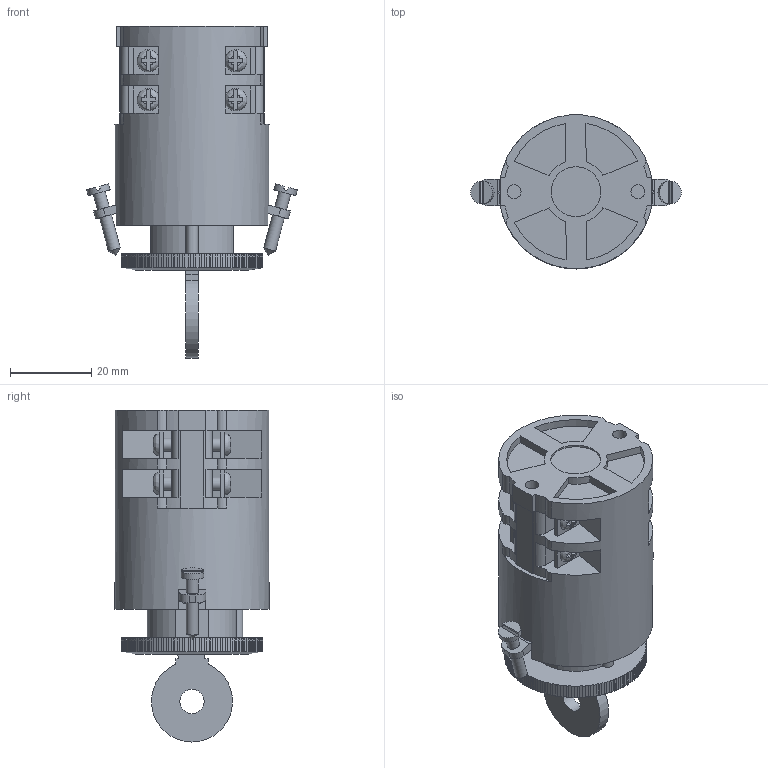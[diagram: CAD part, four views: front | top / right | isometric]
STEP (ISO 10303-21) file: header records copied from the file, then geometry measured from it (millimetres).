
FILE_DESCRIPTION(/* description */ (''),/* implementation_level */ '2;1');
FILE_NAME(/* name */ '4G10-U_wykonanie_S10_2_korpusy.stp',/* time_stamp */ '2021-07-21T08:14:37+02:00',/* author */ (''),/* organization */ (''),/* preprocessor_version */ 'ST-DEVELOPER v18.1',/* originating_system */ 'SIEMENS PLM Software NX 1965',/* authorisation */ '');
FILE_SCHEMA (('AUTOMOTIVE_DESIGN { 1 0 10303 214 3 1 1 1 }'));
Length unit declared in the file: millimetre
Products named in the file (1): 4G10-U_wykonanie_S10_2_korpusy_stp
Bounding box: 51.98 x 38 x 81.88 mm (x, y, z)
Volume: 56856.3 mm3; surface area: 16072.3 mm2
Topology: 1 solids, 3 shells, 703 faces, 1997 edges, 1332 vertices
Faces by surface type: plane 533, cylinder 156, bspline 8, cone 4, torus 2
Full cylindrical faces by diameter (mm): 3 x4, 3.2 x8, 3.4 x4, 5.5 x2, 5.6 x2, 6 x1, 12.3 x1, 15.8 x1, 16.1 x1, 38 x1
Entity records: 22700 total; most frequent: CARTESIAN_POINT 4654, ORIENTED_EDGE 3854, DIRECTION 3586, EDGE_CURVE 1927, LINE 1324, VECTOR 1324, VERTEX_POINT 1303, AXIS2_PLACEMENT_3D 1131
